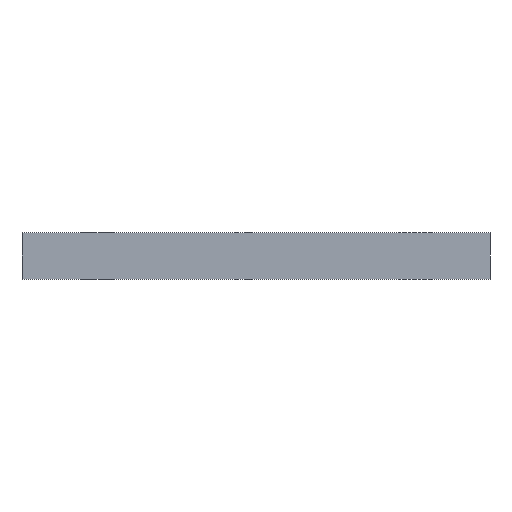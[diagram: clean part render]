
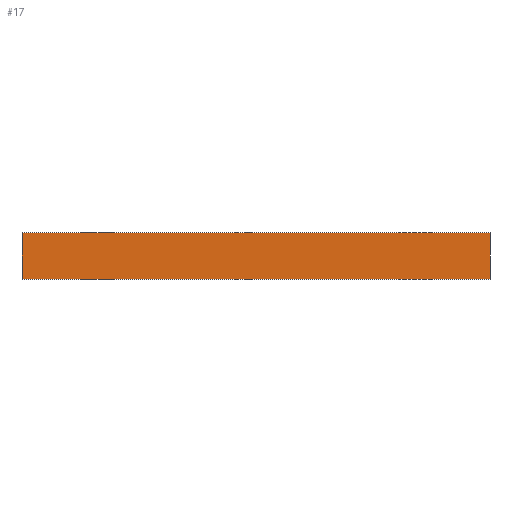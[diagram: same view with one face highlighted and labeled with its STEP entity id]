
A CAD part, front view. The second image highlights one B-rep face of the part: STEP entity #17.
In plain terms, the highlighted planar face has unit normal (0, -1, 0).
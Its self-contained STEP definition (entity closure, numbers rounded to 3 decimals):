
#17 = ADVANCED_FACE('',(#18),#32,.F.);
#18 = FACE_BOUND('',#19,.T.);
#19 = EDGE_LOOP('',(#20,#55,#83,#111));
#20 = ORIENTED_EDGE('',*,*,#21,.T.);
#21 = EDGE_CURVE('',#22,#24,#26,.T.);
#22 = VERTEX_POINT('',#23);
#23 = CARTESIAN_POINT('',(125.,-125.,0.));
#24 = VERTEX_POINT('',#25);
#25 = CARTESIAN_POINT('',(125.,-125.,25.));
#26 = SURFACE_CURVE('',#27,(#31,#43),.PCURVE_S1.);
#27 = LINE('',#28,#29);
#28 = CARTESIAN_POINT('',(125.,-125.,0.));
#29 = VECTOR('',#30,1.);
#30 = DIRECTION('',(-0.,-0.,1.));
#31 = PCURVE('',#32,#37);
#32 = PLANE('',#33);
#33 = AXIS2_PLACEMENT_3D('',#34,#35,#36);
#34 = CARTESIAN_POINT('',(125.,-125.,0.));
#35 = DIRECTION('',(-0.,1.,-0.));
#36 = DIRECTION('',(1.,0.,0.));
#37 = DEFINITIONAL_REPRESENTATION('',(#38),#42);
#38 = LINE('',#39,#40);
#39 = CARTESIAN_POINT('',(-0.,-0.));
#40 = VECTOR('',#41,1.);
#41 = DIRECTION('',(-0.,-1.));
#42 = ( GEOMETRIC_REPRESENTATION_CONTEXT(2) 
PARAMETRIC_REPRESENTATION_CONTEXT() REPRESENTATION_CONTEXT('2D SPACE',''
  ) );
#43 = PCURVE('',#44,#49);
#44 = PLANE('',#45);
#45 = AXIS2_PLACEMENT_3D('',#46,#47,#48);
#46 = CARTESIAN_POINT('',(125.,125.,0.));
#47 = DIRECTION('',(-1.,-0.,-0.));
#48 = DIRECTION('',(0.,1.,0.));
#49 = DEFINITIONAL_REPRESENTATION('',(#50),#54);
#50 = LINE('',#51,#52);
#51 = CARTESIAN_POINT('',(-250.,0.));
#52 = VECTOR('',#53,1.);
#53 = DIRECTION('',(-0.,-1.));
#54 = ( GEOMETRIC_REPRESENTATION_CONTEXT(2) 
PARAMETRIC_REPRESENTATION_CONTEXT() REPRESENTATION_CONTEXT('2D SPACE',''
  ) );
#55 = ORIENTED_EDGE('',*,*,#56,.T.);
#56 = EDGE_CURVE('',#24,#57,#59,.T.);
#57 = VERTEX_POINT('',#58);
#58 = CARTESIAN_POINT('',(-125.,-125.,25.));
#59 = SURFACE_CURVE('',#60,(#64,#71),.PCURVE_S1.);
#60 = LINE('',#61,#62);
#61 = CARTESIAN_POINT('',(125.,-125.,25.));
#62 = VECTOR('',#63,1.);
#63 = DIRECTION('',(-1.,-0.,-0.));
#64 = PCURVE('',#32,#65);
#65 = DEFINITIONAL_REPRESENTATION('',(#66),#70);
#66 = LINE('',#67,#68);
#67 = CARTESIAN_POINT('',(-0.,-25.));
#68 = VECTOR('',#69,1.);
#69 = DIRECTION('',(-1.,0.));
#70 = ( GEOMETRIC_REPRESENTATION_CONTEXT(2) 
PARAMETRIC_REPRESENTATION_CONTEXT() REPRESENTATION_CONTEXT('2D SPACE',''
  ) );
#71 = PCURVE('',#72,#77);
#72 = PLANE('',#73);
#73 = AXIS2_PLACEMENT_3D('',#74,#75,#76);
#74 = CARTESIAN_POINT('',(0.,0.,25.));
#75 = DIRECTION('',(-0.,-0.,1.));
#76 = DIRECTION('',(1.,0.,0.));
#77 = DEFINITIONAL_REPRESENTATION('',(#78),#82);
#78 = LINE('',#79,#80);
#79 = CARTESIAN_POINT('',(125.,-125.));
#80 = VECTOR('',#81,1.);
#81 = DIRECTION('',(-1.,0.));
#82 = ( GEOMETRIC_REPRESENTATION_CONTEXT(2) 
PARAMETRIC_REPRESENTATION_CONTEXT() REPRESENTATION_CONTEXT('2D SPACE',''
  ) );
#83 = ORIENTED_EDGE('',*,*,#84,.F.);
#84 = EDGE_CURVE('',#85,#57,#87,.T.);
#85 = VERTEX_POINT('',#86);
#86 = CARTESIAN_POINT('',(-125.,-125.,0.));
#87 = SURFACE_CURVE('',#88,(#92,#99),.PCURVE_S1.);
#88 = LINE('',#89,#90);
#89 = CARTESIAN_POINT('',(-125.,-125.,0.));
#90 = VECTOR('',#91,1.);
#91 = DIRECTION('',(-0.,-0.,1.));
#92 = PCURVE('',#32,#93);
#93 = DEFINITIONAL_REPRESENTATION('',(#94),#98);
#94 = LINE('',#95,#96);
#95 = CARTESIAN_POINT('',(-250.,0.));
#96 = VECTOR('',#97,1.);
#97 = DIRECTION('',(-0.,-1.));
#98 = ( GEOMETRIC_REPRESENTATION_CONTEXT(2) 
PARAMETRIC_REPRESENTATION_CONTEXT() REPRESENTATION_CONTEXT('2D SPACE',''
  ) );
#99 = PCURVE('',#100,#105);
#100 = PLANE('',#101);
#101 = AXIS2_PLACEMENT_3D('',#102,#103,#104);
#102 = CARTESIAN_POINT('',(-125.,-125.,0.));
#103 = DIRECTION('',(1.,-0.,-0.));
#104 = DIRECTION('',(0.,-1.,0.));
#105 = DEFINITIONAL_REPRESENTATION('',(#106),#110);
#106 = LINE('',#107,#108);
#107 = CARTESIAN_POINT('',(-0.,-0.));
#108 = VECTOR('',#109,1.);
#109 = DIRECTION('',(-0.,-1.));
#110 = ( GEOMETRIC_REPRESENTATION_CONTEXT(2) 
PARAMETRIC_REPRESENTATION_CONTEXT() REPRESENTATION_CONTEXT('2D SPACE',''
  ) );
#111 = ORIENTED_EDGE('',*,*,#112,.F.);
#112 = EDGE_CURVE('',#22,#85,#113,.T.);
#113 = SURFACE_CURVE('',#114,(#118,#125),.PCURVE_S1.);
#114 = LINE('',#115,#116);
#115 = CARTESIAN_POINT('',(125.,-125.,0.));
#116 = VECTOR('',#117,1.);
#117 = DIRECTION('',(-1.,-0.,-0.));
#118 = PCURVE('',#32,#119);
#119 = DEFINITIONAL_REPRESENTATION('',(#120),#124);
#120 = LINE('',#121,#122);
#121 = CARTESIAN_POINT('',(-0.,-0.));
#122 = VECTOR('',#123,1.);
#123 = DIRECTION('',(-1.,0.));
#124 = ( GEOMETRIC_REPRESENTATION_CONTEXT(2) 
PARAMETRIC_REPRESENTATION_CONTEXT() REPRESENTATION_CONTEXT('2D SPACE',''
  ) );
#125 = PCURVE('',#126,#131);
#126 = PLANE('',#127);
#127 = AXIS2_PLACEMENT_3D('',#128,#129,#130);
#128 = CARTESIAN_POINT('',(0.,0.,0.));
#129 = DIRECTION('',(-0.,-0.,1.));
#130 = DIRECTION('',(1.,0.,0.));
#131 = DEFINITIONAL_REPRESENTATION('',(#132),#136);
#132 = LINE('',#133,#134);
#133 = CARTESIAN_POINT('',(125.,-125.));
#134 = VECTOR('',#135,1.);
#135 = DIRECTION('',(-1.,0.));
#136 = ( GEOMETRIC_REPRESENTATION_CONTEXT(2) 
PARAMETRIC_REPRESENTATION_CONTEXT() REPRESENTATION_CONTEXT('2D SPACE',''
  ) );
